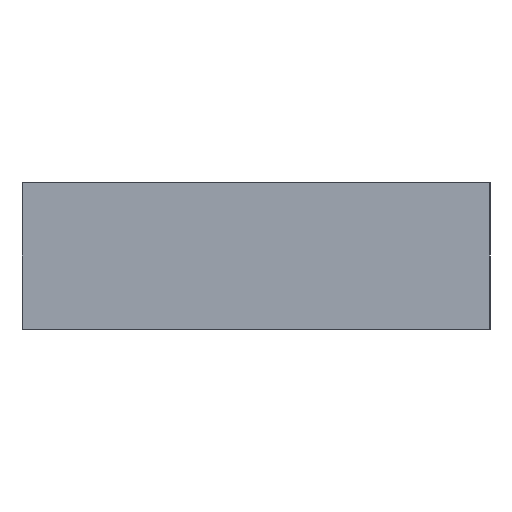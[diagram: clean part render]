
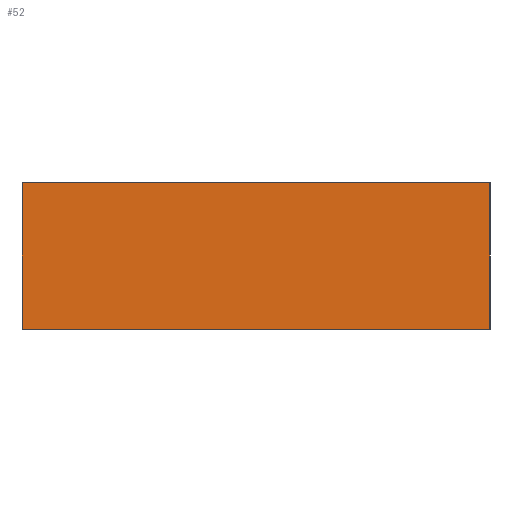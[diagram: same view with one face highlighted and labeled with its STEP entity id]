
A CAD part, left-side view. The second image highlights one B-rep face of the part: STEP entity #52.
In plain terms, the highlighted planar face has unit normal (-1, 0, 0).
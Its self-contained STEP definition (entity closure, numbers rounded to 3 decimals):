
#52 = ADVANCED_FACE( '', ( #105 ), #106, .F. );
#105 = FACE_OUTER_BOUND( '', #158, .T. );
#106 = PLANE( '', #159 );
#158 = EDGE_LOOP( '', ( #238, #239, #240, #241 ) );
#159 = AXIS2_PLACEMENT_3D( '', #242, #243, #244 );
#238 = ORIENTED_EDGE( '', *, *, #319, .T. );
#239 = ORIENTED_EDGE( '', *, *, #307, .F. );
#240 = ORIENTED_EDGE( '', *, *, #323, .F. );
#241 = ORIENTED_EDGE( '', *, *, #324, .T. );
#242 = CARTESIAN_POINT( '', ( -5., 0., 5. ) );
#243 = DIRECTION( '', ( 1., 0., 0. ) );
#244 = DIRECTION( '', ( 0., 0., -1. ) );
#307 = EDGE_CURVE( '', #357, #355, #359, .T. );
#319 = EDGE_CURVE( '', #372, #355, #377, .T. );
#323 = EDGE_CURVE( '', #382, #357, #383, .T. );
#324 = EDGE_CURVE( '', #382, #372, #384, .T. );
#355 = VERTEX_POINT( '', #425 );
#357 = VERTEX_POINT( '', #428 );
#359 = LINE( '', #431, #432 );
#372 = VERTEX_POINT( '', #448 );
#377 = LINE( '', #456, #457 );
#382 = VERTEX_POINT( '', #462 );
#383 = LINE( '', #463, #464 );
#384 = LINE( '', #465, #466 );
#425 = CARTESIAN_POINT( '', ( -5., -32., -5. ) );
#428 = CARTESIAN_POINT( '', ( -5., -32., 5. ) );
#431 = CARTESIAN_POINT( '', ( -5., -32., 5. ) );
#432 = VECTOR( '', #494, 1000. );
#448 = CARTESIAN_POINT( '', ( -5., 0., -5. ) );
#456 = CARTESIAN_POINT( '', ( -5., 0., -5. ) );
#457 = VECTOR( '', #507, 1000. );
#462 = CARTESIAN_POINT( '', ( -5., 0., 5. ) );
#463 = CARTESIAN_POINT( '', ( -5., 0., 5. ) );
#464 = VECTOR( '', #511, 1000. );
#465 = CARTESIAN_POINT( '', ( -5., 0., 5. ) );
#466 = VECTOR( '', #512, 1000. );
#494 = DIRECTION( '', ( 0., 0., -1. ) );
#507 = DIRECTION( '', ( 0., -1., 0. ) );
#511 = DIRECTION( '', ( 0., -1., 0. ) );
#512 = DIRECTION( '', ( 0., 0., -1. ) );
